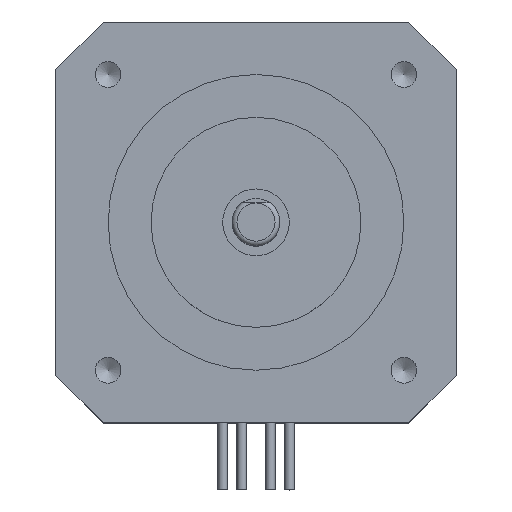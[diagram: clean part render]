
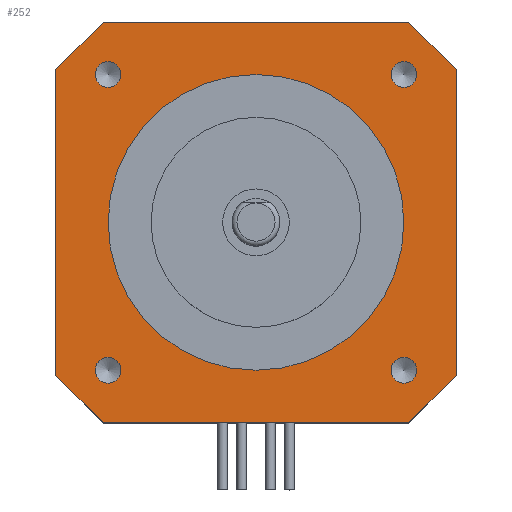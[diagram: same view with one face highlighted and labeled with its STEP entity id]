
A CAD part, top view. The second image highlights one B-rep face of the part: STEP entity #252.
In plain terms, the highlighted planar face has unit normal (0, 0, 1).
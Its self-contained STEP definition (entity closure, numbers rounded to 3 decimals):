
#252=ADVANCED_FACE('',(#1042,#1043,#1044,#1045,#1046,#1047),#399,.F.);
#399=PLANE('',#2532);
#556=LINE('',#3478,#815);
#557=LINE('',#3481,#816);
#558=LINE('',#3483,#817);
#559=LINE('',#3485,#818);
#560=LINE('',#3487,#819);
#561=LINE('',#3489,#820);
#562=LINE('',#3491,#821);
#563=LINE('',#3493,#822);
#815=VECTOR('',#2788,1.);
#816=VECTOR('',#2789,1.);
#817=VECTOR('',#2790,1.);
#818=VECTOR('',#2791,1.);
#819=VECTOR('',#2792,1.);
#820=VECTOR('',#2793,1.);
#821=VECTOR('',#2794,1.);
#822=VECTOR('',#2795,1.);
#1042=FACE_BOUND('',#1134,.T.);
#1043=FACE_BOUND('',#1135,.T.);
#1044=FACE_BOUND('',#1136,.T.);
#1045=FACE_BOUND('',#1137,.T.);
#1046=FACE_BOUND('',#1138,.T.);
#1047=FACE_BOUND('',#1139,.T.);
#1134=EDGE_LOOP('',(#1367));
#1135=EDGE_LOOP('',(#1368));
#1136=EDGE_LOOP('',(#1369));
#1137=EDGE_LOOP('',(#1370));
#1138=EDGE_LOOP('',(#1371,#1372,#1373,#1374,#1375,#1376,#1377,#1378));
#1139=EDGE_LOOP('',(#1379));
#1367=ORIENTED_EDGE('',*,*,#2209,.T.);
#1368=ORIENTED_EDGE('',*,*,#2210,.T.);
#1369=ORIENTED_EDGE('',*,*,#2211,.T.);
#1370=ORIENTED_EDGE('',*,*,#2212,.T.);
#1371=ORIENTED_EDGE('',*,*,#2213,.F.);
#1372=ORIENTED_EDGE('',*,*,#2214,.T.);
#1373=ORIENTED_EDGE('',*,*,#2215,.F.);
#1374=ORIENTED_EDGE('',*,*,#2216,.T.);
#1375=ORIENTED_EDGE('',*,*,#2217,.F.);
#1376=ORIENTED_EDGE('',*,*,#2218,.T.);
#1377=ORIENTED_EDGE('',*,*,#2219,.F.);
#1378=ORIENTED_EDGE('',*,*,#2220,.T.);
#1379=ORIENTED_EDGE('',*,*,#2221,.T.);
#1985=VERTEX_POINT('',#3471);
#1986=VERTEX_POINT('',#3473);
#1987=VERTEX_POINT('',#3475);
#1988=VERTEX_POINT('',#3477);
#1989=VERTEX_POINT('',#3479);
#1990=VERTEX_POINT('',#3480);
#1991=VERTEX_POINT('',#3482);
#1992=VERTEX_POINT('',#3484);
#1993=VERTEX_POINT('',#3486);
#1994=VERTEX_POINT('',#3488);
#1995=VERTEX_POINT('',#3490);
#1996=VERTEX_POINT('',#3492);
#1997=VERTEX_POINT('',#3495);
#2209=EDGE_CURVE('',#1985,#1985,#2474,.T.);
#2210=EDGE_CURVE('',#1986,#1986,#2475,.T.);
#2211=EDGE_CURVE('',#1987,#1987,#2476,.T.);
#2212=EDGE_CURVE('',#1988,#1988,#2477,.T.);
#2213=EDGE_CURVE('',#1989,#1990,#556,.T.);
#2214=EDGE_CURVE('',#1989,#1991,#557,.T.);
#2215=EDGE_CURVE('',#1992,#1991,#558,.T.);
#2216=EDGE_CURVE('',#1992,#1993,#559,.T.);
#2217=EDGE_CURVE('',#1994,#1993,#560,.T.);
#2218=EDGE_CURVE('',#1994,#1995,#561,.T.);
#2219=EDGE_CURVE('',#1996,#1995,#562,.T.);
#2220=EDGE_CURVE('',#1996,#1990,#563,.T.);
#2221=EDGE_CURVE('',#1997,#1997,#2478,.T.);
#2474=CIRCLE('',#2527,1.35);
#2475=CIRCLE('',#2528,1.35);
#2476=CIRCLE('',#2529,1.35);
#2477=CIRCLE('',#2530,1.35);
#2478=CIRCLE('',#2531,15.5);
#2527=AXIS2_PLACEMENT_3D('',#3470,#2780,#2781);
#2528=AXIS2_PLACEMENT_3D('',#3472,#2782,#2783);
#2529=AXIS2_PLACEMENT_3D('',#3474,#2784,#2785);
#2530=AXIS2_PLACEMENT_3D('',#3476,#2786,#2787);
#2531=AXIS2_PLACEMENT_3D('',#3494,#2796,#2797);
#2532=AXIS2_PLACEMENT_3D('',#3496,#2798,#2799);
#2780=DIRECTION('',(0.,0.,-1.));
#2781=DIRECTION('',(-1.,0.,0.));
#2782=DIRECTION('',(0.,0.,-1.));
#2783=DIRECTION('',(-1.,0.,0.));
#2784=DIRECTION('',(0.,0.,-1.));
#2785=DIRECTION('',(-1.,0.,0.));
#2786=DIRECTION('',(0.,0.,-1.));
#2787=DIRECTION('',(-1.,0.,0.));
#2788=DIRECTION('',(1.,0.,0.));
#2789=DIRECTION('',(-0.707,-0.707,0.));
#2790=DIRECTION('',(0.,1.,0.));
#2791=DIRECTION('',(0.707,-0.707,0.));
#2792=DIRECTION('',(-1.,0.,0.));
#2793=DIRECTION('',(0.707,0.707,0.));
#2794=DIRECTION('',(0.,-1.,0.));
#2795=DIRECTION('',(-0.707,0.707,0.));
#2796=DIRECTION('',(0.,0.,-1.));
#2797=DIRECTION('',(1.,0.,0.));
#2798=DIRECTION('',(0.,0.,-1.));
#2799=DIRECTION('',(-1.,0.,0.));
#3470=CARTESIAN_POINT('',(15.5,-15.5,0.));
#3471=CARTESIAN_POINT('',(14.15,-15.5,0.));
#3472=CARTESIAN_POINT('',(15.5,15.5,0.));
#3473=CARTESIAN_POINT('',(14.15,15.5,0.));
#3474=CARTESIAN_POINT('',(-15.5,15.5,0.));
#3475=CARTESIAN_POINT('',(-16.85,15.5,0.));
#3476=CARTESIAN_POINT('',(-15.5,-15.5,0.));
#3477=CARTESIAN_POINT('',(-16.85,-15.5,0.));
#3478=CARTESIAN_POINT('',(-21.,21.,0.));
#3479=CARTESIAN_POINT('',(-16.,21.,0.));
#3480=CARTESIAN_POINT('',(16.,21.,0.));
#3481=CARTESIAN_POINT('',(-16.,21.,0.));
#3482=CARTESIAN_POINT('',(-21.,16.,0.));
#3483=CARTESIAN_POINT('',(-21.,-21.,0.));
#3484=CARTESIAN_POINT('',(-21.,-16.,0.));
#3485=CARTESIAN_POINT('',(-21.,-16.,0.));
#3486=CARTESIAN_POINT('',(-16.,-21.,0.));
#3487=CARTESIAN_POINT('',(21.,-21.,0.));
#3488=CARTESIAN_POINT('',(16.,-21.,0.));
#3489=CARTESIAN_POINT('',(16.,-21.,0.));
#3490=CARTESIAN_POINT('',(21.,-16.,0.));
#3491=CARTESIAN_POINT('',(21.,21.,0.));
#3492=CARTESIAN_POINT('',(21.,16.,0.));
#3493=CARTESIAN_POINT('',(21.,16.,0.));
#3494=CARTESIAN_POINT('',(0.,0.,0.));
#3495=CARTESIAN_POINT('',(15.5,0.,0.));
#3496=CARTESIAN_POINT('',(-21.,-21.,0.));
